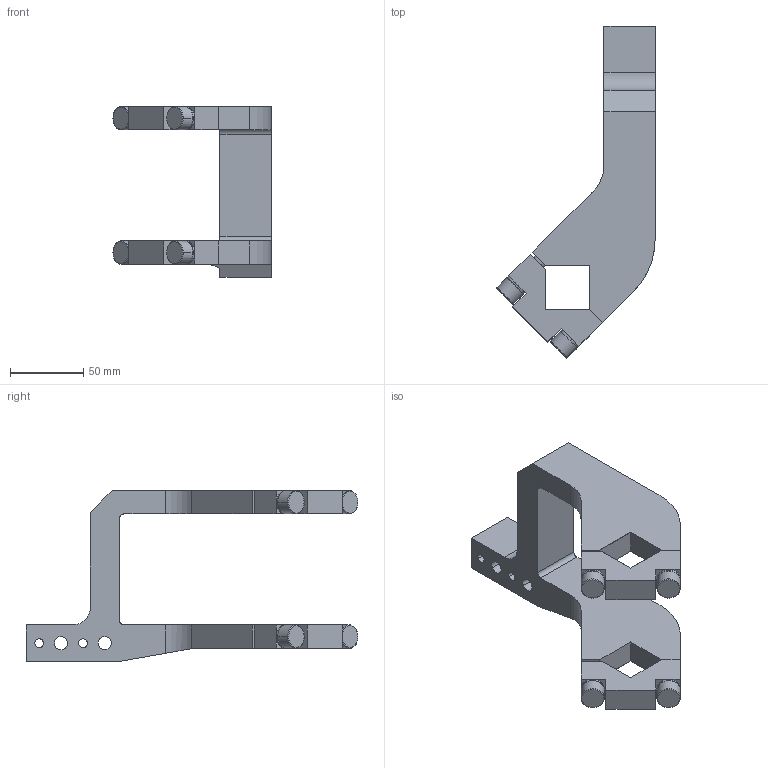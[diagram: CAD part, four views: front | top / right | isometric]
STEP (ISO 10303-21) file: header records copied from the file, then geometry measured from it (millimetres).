
FILE_DESCRIPTION(('CATIA V5 STEP Exchange'),'2;1');
FILE_NAME('E:\clampact\CLAMPACT\clampact\catalog\Clampact Arm\Arm 3D\Clampact Arm\arm_K80_25_A81_Clampact.stp','2022-12-06T08:58:45+00:00',('none'),('none'),'CATIA Version 5 Release 19 SP 6 (IN-10)','CATIA V5 STEP AP203','none');
FILE_SCHEMA(('CONFIG_CONTROL_DESIGN'));
Length unit declared in the file: millimetre
Products named in the file (1): K80_25_A81_Clampact-柯莱普
Bounding box: 108.33 x 227.33 x 117 mm (x, y, z)
Volume: 371880.2 mm3; surface area: 73049.9 mm2
Topology: 1 solids, 5 shells, 158 faces, 406 edges, 252 vertices
Faces by surface type: plane 79, cylinder 47, cone 20, torus 12
Entity records: 4563 total; most frequent: CARTESIAN_POINT 998, ORIENTED_EDGE 796, DIRECTION 581, EDGE_CURVE 398, VERTEX_POINT 252, VECTOR 238, LINE 238, AXIS2_PLACEMENT_3D 233
